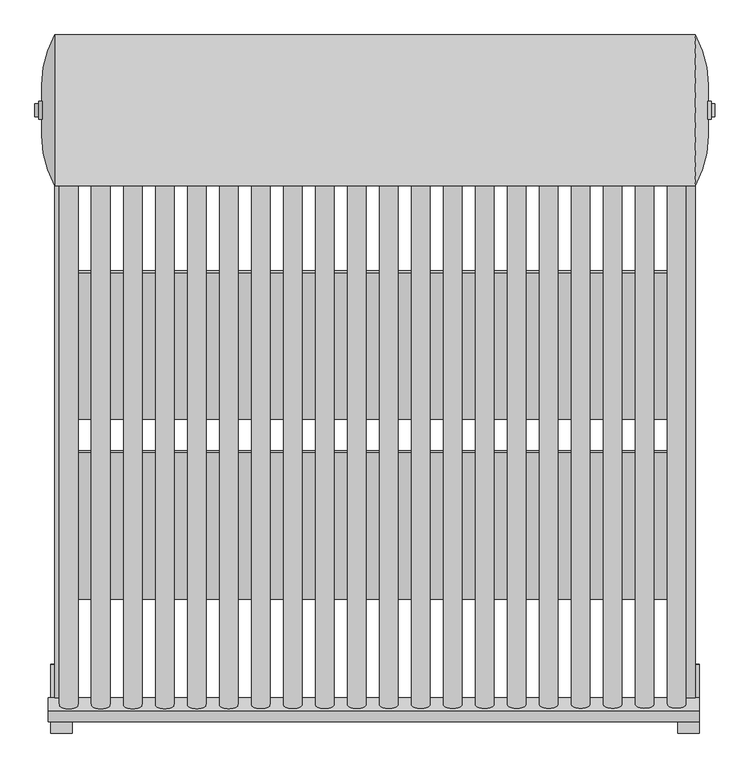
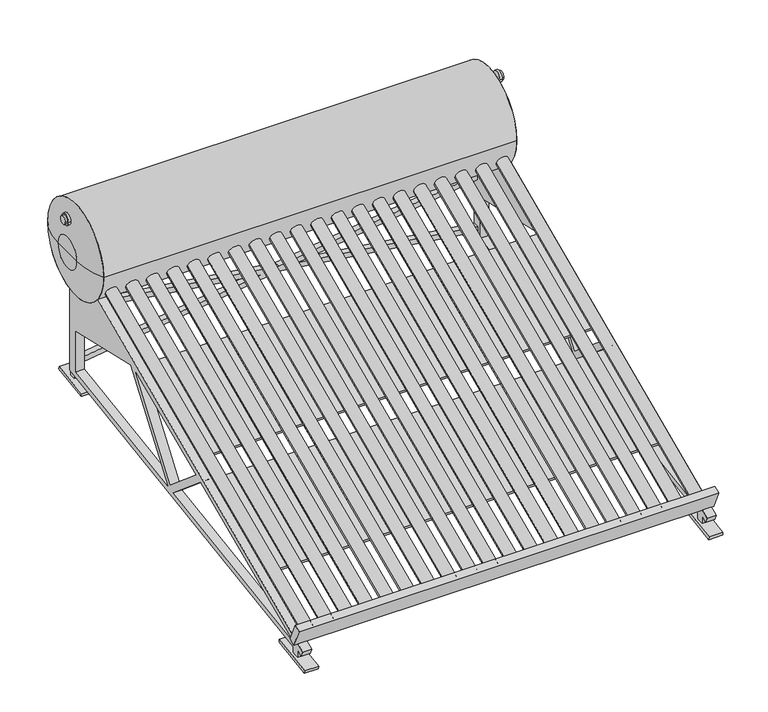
"""IFC4 building model written with IfcOpenShell, lengths in millimetres: proxy geometry, calentador solar techo inclinado : calentador solar techo inclinado."""

from ifc_helpers import new_model, si_unit, point, frame, frame_2d, origin, place, context, project, spatial, polyline, circle_curve, ellipse_curve, trimmed, segment, composite_curve, outline, extrude, source, transform, mapped, element, save
from ifc_brep_helpers import plane_surface, revolved_surface, advanced_brep


def mechanical_equipment_34cca83e(model_context):
    return source(origin(), model_context, "Body", "SolidModel", [
        extrude(outline(polyline([(386.9364534, -952.961891), (361.477457, -952.961891), (493.3636783, -3.7425641), (359.3198256, 957.5336116), (384.7198256, 957.5336116), (506.0407831, 87.4978457), (626.7042219, 955.9438976), (652.1632184, 955.9438976), (518.7932297, -3.9544877), (652.521398, -962.9667781), (627.121398, -962.9667781), (506.1161249, -95.1948975), (386.9364534, -952.961891)])), frame((0.0, 19.5775336, 0.0), z_axis=(0.0, 1.0, 0.0), x_axis=(0.0, 0.0, 1.0)), (0.0, 0.0, 1.0), 29.5442326),
        extrude(outline(composite_curve([segment(polyline([(-1905.5331007, 57.6252264), (-187.0505987, 822.7429315)]), True, "CONTINUOUS"), segment(trimmed(circle_curve(frame_2d((0.0, 965.0)), 235.0), [point((-187.0505987, 822.7429315))], [point((49.1217662, 735.1912706))], True, "CARTESIAN"), True, "CONTINUOUS"), segment(polyline([(49.1217662, 735.1912706), (49.1217662, 318.5210353), (-1826.3569104, 37.5188246), (-1826.3569104, 5.028258), (-1861.3569104, 5.028258), (-1861.3569104, 44.4546452), (-1893.3310014, 30.2188627), (-1905.5331007, 57.6252264)]), True, "CONTINUOUS")], self_intersect=False), holes=[polyline([(-1043.9875005, 404.7127531), (-1815.4713217, 64.8333267), (-817.1883405, 214.4056616), (-1043.9875005, 404.7127531)]), polyline([(-459.6787257, 652.4844148), (-770.7047508, 221.370279), (0.0, 336.8446598), (0.0, 546.1477511), (-459.6787257, 652.4844148)]), polyline([(-794.5530363, 241.3813666), (-505.599093, 641.9013215), (-1008.0644826, 420.5387424), (-794.5530363, 241.3813666)])]), frame((958.2556313, 0.0, 0.0), z_axis=(1.0, 0.0, 0.0), x_axis=(0.0, 1.0, 0.0)), (0.0, 0.0, 1.0), 42.4663884),
        extrude(outline(composite_curve([segment(polyline([(-1905.5331007, 57.6252264), (-187.0505987, 822.7429315)]), True, "CONTINUOUS"), segment(trimmed(circle_curve(frame_2d((0.0, 965.0)), 235.0), [point((-187.0505987, 822.7429315))], [point((49.1217662, 735.1912706))], True, "CARTESIAN"), True, "CONTINUOUS"), segment(polyline([(49.1217662, 735.1912706), (49.1217662, 318.5210353), (-1826.3569104, 37.5188246), (-1826.3569104, 5.028258), (-1861.3569104, 5.028258), (-1861.3569104, 44.4546452), (-1893.3310014, 30.2188627), (-1905.5331007, 57.6252264)]), True, "CONTINUOUS")], self_intersect=False), holes=[polyline([(-1043.9875005, 404.7127531), (-1815.4713217, 64.8333267), (-817.1883405, 214.4056616), (-1043.9875005, 404.7127531)]), polyline([(-459.6787257, 652.4844148), (-770.7047508, 221.370279), (0.0, 336.8446598), (0.0, 546.1477511), (-459.6787257, 652.4844148)]), polyline([(-794.5530363, 241.3813666), (-505.599093, 641.9013215), (-1008.0644826, 420.5387424), (-794.5530363, 241.3813666)])]), frame((-999.8561024, 0.0, 0.0), z_axis=(1.0, 0.0, 0.0), x_axis=(0.0, 1.0, 0.0)), (0.0, 0.0, 1.0), 42.4663884),
        extrude(outline(polyline([(0.0, -215.0), (0.0, 0.0), (66.8072898, 0.0), (66.8072898, -215.0), (0.0, -215.0)])), frame((1012.2911223, -84.5844086, 255.6891183), z_axis=(0.0, -0.13545428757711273, 0.9907835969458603), x_axis=(-1.0, 0.0, 0.0)), (0.0, 0.0, 1.0), 15.0),
        extrude(outline(polyline([(0.0, -500.0), (0.0, 0.0), (1915.0672232, 0.0), (1915.0672232, -500.0), (0.0, -500.0)])), frame((957.5336116, -1519.1906524, 204.011819), z_axis=(0.0, -0.40673664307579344, 0.913545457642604), x_axis=(-1.0, 0.0, 0.0)), (0.0, 0.0, 1.0), 15.0),
        extrude(outline(polyline([(0.0, -500.0), (0.0, 0.0), (1915.0672232, 0.0), (1915.0672232, -500.0), (0.0, -500.0)])), frame((957.5336116, -957.3601959, 454.1548545), z_axis=(0.0, -0.4067366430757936, 0.9135454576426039), x_axis=(-1.0, 0.0, 0.0)), (0.0, 0.0, 1.0), 15.0),
        extrude(outline(composite_curve([segment(trimmed(circle_curve(frame_2d((0.0, 1137.2341595)), 27.661975), [point((-27.661975, 1137.2341595))], [point((27.661975, 1137.2341595))], False, "CARTESIAN"), True, "CONTINUOUS"), segment(trimmed(circle_curve(frame_2d((0.0, 1137.2341595)), 27.661975), [point((27.661975, 1137.2341595))], [point((-27.661975, 1137.2341595))], False, "CARTESIAN"), True, "CONTINUOUS")], self_intersect=False)), frame((-1050.1071672, 0.0, 0.0), z_axis=(1.0, 0.0, 0.0), x_axis=(0.0, 1.0, 0.0)), (0.0, 0.0, 1.0), 11.3301594),
        extrude(outline(composite_curve([segment(trimmed(circle_curve(frame_2d((0.0, 1137.2341595)), 20.0), [point((-20.0, 1137.2341595))], [point((20.0, 1137.2341595))], False, "CARTESIAN"), True, "CONTINUOUS"), segment(trimmed(circle_curve(frame_2d((0.0, 1137.2341595)), 20.0), [point((20.0, 1137.2341595))], [point((-20.0, 1137.2341595))], False, "CARTESIAN"), True, "CONTINUOUS")], self_intersect=False)), frame((-1061.3303129, 0.0, 0.0), z_axis=(1.0, 0.0, 0.0), x_axis=(0.0, 1.0, 0.0)), (0.0, 0.0, 1.0), 11.2231457),
        extrude(outline(polyline([(0.0, -189.1791061), (0.0, 0.0), (66.4907437, 0.0), (66.4907437, -189.1791061), (0.0, -189.1791061)])), frame((-1011.9058815, 119.5251489, 283.5938139), z_axis=(0.0, -0.135454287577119, 0.9907835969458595), x_axis=(1.0, 0.0, 0.0)), (0.0, 0.0, 1.0), 15.0),
        extrude(outline(polyline([(19.5775336, 728.8380011), (49.1217662, 723.6285558), (49.1217662, 291.930498), (19.5775336, 291.930498), (19.5775336, 728.8380011)])), frame((-995.7677785, 0.0, 0.0), z_axis=(1.0, 0.0, 0.0), x_axis=(0.0, 1.0, 0.0)), (0.0, 0.0, 1.0), 32.8010004),
        extrude(outline(polyline([(0.0, -215.0), (0.0, 0.0), (66.8072898, 0.0), (66.8072898, -215.0), (0.0, -215.0)])), frame((-1012.2911223, -1727.8034415, 6.2882596), z_axis=(0.0, -0.1481756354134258, 0.9889610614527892), x_axis=(1.0, 0.0, 0.0)), (0.0, 0.0, 1.0), 15.0),
        extrude(outline(composite_curve([segment(trimmed(circle_curve(frame_2d((-656.0288695, 0.0)), 40.0), [point((-696.0288695, 0.0))], [point((-616.0288695, 0.0))], False, "CARTESIAN"), True, "CONTINUOUS"), segment(trimmed(circle_curve(frame_2d((-656.0288695, 0.0)), 40.0), [point((-616.0288695, 0.0))], [point((-696.0288695, 0.0))], False, "CARTESIAN"), True, "CONTINUOUS")], self_intersect=False)), frame((0.0, 0.0, 1166.3115119), z_axis=(0.0, 0.0, 1.0), x_axis=(1.0, 0.0, 0.0)), (0.0, 0.0, 1.0), 16.2742817),
        extrude(outline(composite_curve([segment(trimmed(circle_curve(frame_2d((-656.0288695, 0.0)), 25.0), [point((-681.0288695, 0.0))], [point((-631.0288695, 0.0))], False, "CARTESIAN"), True, "CONTINUOUS"), segment(trimmed(circle_curve(frame_2d((-656.0288695, 0.0)), 25.0), [point((-631.0288695, 0.0))], [point((-681.0288695, 0.0))], False, "CARTESIAN"), True, "CONTINUOUS")], self_intersect=False)), frame((0.0, 0.0, 1182.5857936), z_axis=(0.0, 0.0, 1.0), x_axis=(1.0, 0.0, 0.0)), (0.0, 0.0, 1.0), 9.5265534),
        extrude(outline(composite_curve([segment(trimmed(circle_curve(frame_2d((0.0, 1137.2341595)), 27.661975), [point((-27.661975, 1137.2341595))], [point((27.661975, 1137.2341595))], False, "CARTESIAN"), True, "CONTINUOUS"), segment(trimmed(circle_curve(frame_2d((0.0, 1137.2341595)), 27.661975), [point((27.661975, 1137.2341595))], [point((-27.661975, 1137.2341595))], False, "CARTESIAN"), True, "CONTINUOUS")], self_intersect=False)), frame((1038.7770077, 0.0, 0.0), z_axis=(1.0, 0.0, 0.0), x_axis=(0.0, 1.0, 0.0)), (0.0, 0.0, 1.0), 11.3301594),
        extrude(outline(composite_curve([segment(trimmed(circle_curve(frame_2d((0.0, 1137.2341595)), 20.0), [point((-20.0, 1137.2341595))], [point((20.0, 1137.2341595))], False, "CARTESIAN"), True, "CONTINUOUS"), segment(trimmed(circle_curve(frame_2d((0.0, 1137.2341595)), 20.0), [point((20.0, 1137.2341595))], [point((-20.0, 1137.2341595))], False, "CARTESIAN"), True, "CONTINUOUS")], self_intersect=False)), frame((1050.1071672, 0.0, 0.0), z_axis=(1.0, 0.0, 0.0), x_axis=(0.0, 1.0, 0.0)), (0.0, 0.0, 1.0), 11.2231457),
        extrude(outline(polyline([(0.0, -189.1791061), (0.0, 0.0), (66.4907437, 0.0), (66.4907437, -189.1791061), (0.0, -189.1791061)])), frame((1011.9058815, -72.8931622, 257.2874789), z_axis=(0.0, -0.135454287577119, 0.9907835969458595), x_axis=(-1.0, 0.0, 0.0)), (0.0, 0.0, 1.0), 15.0),
        extrude(outline(polyline([(19.5775336, 728.8380011), (49.1217662, 723.6285558), (49.1217662, 282.9125999), (19.5775336, 282.9125999), (19.5775336, 728.8380011)])), frame((962.9667781, 0.0, 0.0), z_axis=(1.0, 0.0, 0.0), x_axis=(0.0, 1.0, 0.0)), (0.0, 0.0, 1.0), 32.8010004),
        extrude(outline(polyline([(0.0, -215.0), (0.0, 0.0), (66.8072898, 0.0), (66.8072898, -215.0), (0.0, -215.0)])), frame((1012.2911223, -1940.4300697, -25.569502), z_axis=(0.0, -0.1481756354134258, 0.9889610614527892), x_axis=(-1.0, 0.0, 0.0)), (0.0, 0.0, 1.0), 15.0),
        extrude(outline(polyline([(0.0, -34.6902905), (0.0, 0.0), (2031.582253, 0.0), (2031.582253, -34.6902905), (0.0, -34.6902905)])), frame((1012.2911223, -1864.4235551, 75.9283753), z_axis=(0.0, -0.40673664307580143, 0.9135454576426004), x_axis=(-1.0, 0.0, 0.0)), (0.0, 0.0, 1.0), 103.9882392),
        extrude(outline(composite_curve([segment(trimmed(circle_curve(frame_2d((0.0, -29.0)), 29.0), [point((0.0, -58.0))], [point((0.0, 0.0))], False, "CARTESIAN"), True, "CONTINUOUS"), segment(trimmed(circle_curve(frame_2d((0.0, -29.0)), 29.0), [point((0.0, 0.0))], [point((0.0, -58.0))], False, "CARTESIAN"), True, "CONTINUOUS")], self_intersect=False)), frame((-926.6831086, -1866.0756965, 137.365657), z_axis=(0.0, 0.9135454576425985, 0.4067366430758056), x_axis=(0.0, -0.4067366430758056, 0.9135454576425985)), (0.0, 0.0, 1.0), 1800.0),
        extrude(outline(composite_curve([segment(trimmed(circle_curve(frame_2d((0.0, -29.0)), 29.0), [point((0.0, -58.0))], [point((0.0, 0.0))], False, "CARTESIAN"), True, "CONTINUOUS"), segment(trimmed(circle_curve(frame_2d((0.0, -29.0)), 29.0), [point((0.0, 0.0))], [point((0.0, -58.0))], False, "CARTESIAN"), True, "CONTINUOUS")], self_intersect=False)), frame((-826.8116296, -1865.4143841, 137.3309991), z_axis=(0.0, 0.9135454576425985, 0.4067366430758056), x_axis=(0.0, -0.4067366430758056, 0.9135454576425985)), (0.0, 0.0, 1.0), 1800.0),
        extrude(outline(composite_curve([segment(trimmed(circle_curve(frame_2d((0.0, -29.0)), 29.0), [point((0.0, -58.0))], [point((0.0, 0.0))], False, "CARTESIAN"), True, "CONTINUOUS"), segment(trimmed(circle_curve(frame_2d((0.0, -29.0)), 29.0), [point((0.0, 0.0))], [point((0.0, -58.0))], False, "CARTESIAN"), True, "CONTINUOUS")], self_intersect=False)), frame((-726.9401505, -1864.7530718, 137.2963412), z_axis=(0.0, 0.9135454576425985, 0.4067366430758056), x_axis=(0.0, -0.4067366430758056, 0.9135454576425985)), (0.0, 0.0, 1.0), 1800.0),
        extrude(outline(composite_curve([segment(trimmed(circle_curve(frame_2d((0.0, -29.0)), 29.0), [point((0.0, -58.0))], [point((0.0, 0.0))], False, "CARTESIAN"), True, "CONTINUOUS"), segment(trimmed(circle_curve(frame_2d((0.0, -29.0)), 29.0), [point((0.0, 0.0))], [point((0.0, -58.0))], False, "CARTESIAN"), True, "CONTINUOUS")], self_intersect=False)), frame((-627.0686715, -1864.0917594, 137.2616833), z_axis=(0.0, 0.9135454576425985, 0.4067366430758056), x_axis=(0.0, -0.4067366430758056, 0.9135454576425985)), (0.0, 0.0, 1.0), 1800.0),
        extrude(outline(composite_curve([segment(trimmed(circle_curve(frame_2d((0.0, -29.0)), 29.0), [point((0.0, -58.0))], [point((0.0, 0.0))], False, "CARTESIAN"), True, "CONTINUOUS"), segment(trimmed(circle_curve(frame_2d((0.0, -29.0)), 29.0), [point((0.0, 0.0))], [point((0.0, -58.0))], False, "CARTESIAN"), True, "CONTINUOUS")], self_intersect=False)), frame((-527.1971924, -1863.430447, 137.2270254), z_axis=(0.0, 0.9135454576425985, 0.4067366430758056), x_axis=(0.0, -0.4067366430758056, 0.9135454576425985)), (0.0, 0.0, 1.0), 1800.0),
        extrude(outline(composite_curve([segment(trimmed(circle_curve(frame_2d((0.0, -29.0)), 29.0), [point((0.0, -58.0))], [point((0.0, 0.0))], False, "CARTESIAN"), True, "CONTINUOUS"), segment(trimmed(circle_curve(frame_2d((0.0, -29.0)), 29.0), [point((0.0, 0.0))], [point((0.0, -58.0))], False, "CARTESIAN"), True, "CONTINUOUS")], self_intersect=False)), frame((-427.3257134, -1862.7691347, 137.1923675), z_axis=(0.0, 0.9135454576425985, 0.4067366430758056), x_axis=(0.0, -0.4067366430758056, 0.9135454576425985)), (0.0, 0.0, 1.0), 1800.0),
        extrude(outline(composite_curve([segment(trimmed(circle_curve(frame_2d((0.0, -29.0)), 29.0), [point((0.0, -58.0))], [point((0.0, 0.0))], False, "CARTESIAN"), True, "CONTINUOUS"), segment(trimmed(circle_curve(frame_2d((0.0, -29.0)), 29.0), [point((0.0, 0.0))], [point((0.0, -58.0))], False, "CARTESIAN"), True, "CONTINUOUS")], self_intersect=False)), frame((-327.4542343, -1862.1078223, 137.1577096), z_axis=(0.0, 0.9135454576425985, 0.4067366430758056), x_axis=(0.0, -0.4067366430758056, 0.9135454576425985)), (0.0, 0.0, 1.0), 1800.0),
        extrude(outline(composite_curve([segment(trimmed(circle_curve(frame_2d((0.0, -29.0)), 29.0), [point((0.0, -58.0))], [point((0.0, 0.0))], False, "CARTESIAN"), True, "CONTINUOUS"), segment(trimmed(circle_curve(frame_2d((0.0, -29.0)), 29.0), [point((0.0, 0.0))], [point((0.0, -58.0))], False, "CARTESIAN"), True, "CONTINUOUS")], self_intersect=False)), frame((-227.5827553, -1861.4465099, 137.1230516), z_axis=(0.0, 0.9135454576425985, 0.4067366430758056), x_axis=(0.0, -0.4067366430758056, 0.9135454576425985)), (0.0, 0.0, 1.0), 1800.0),
        extrude(outline(composite_curve([segment(trimmed(circle_curve(frame_2d((0.0, -29.0)), 29.0), [point((0.0, -58.0))], [point((0.0, 0.0))], False, "CARTESIAN"), True, "CONTINUOUS"), segment(trimmed(circle_curve(frame_2d((0.0, -29.0)), 29.0), [point((0.0, 0.0))], [point((0.0, -58.0))], False, "CARTESIAN"), True, "CONTINUOUS")], self_intersect=False)), frame((-127.7112762, -1860.7851976, 137.0883937), z_axis=(0.0, 0.9135454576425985, 0.4067366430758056), x_axis=(0.0, -0.4067366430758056, 0.9135454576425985)), (0.0, 0.0, 1.0), 1800.0),
        extrude(outline(composite_curve([segment(trimmed(circle_curve(frame_2d((0.0, -29.0)), 29.0), [point((0.0, -58.0))], [point((0.0, 0.0))], False, "CARTESIAN"), True, "CONTINUOUS"), segment(trimmed(circle_curve(frame_2d((0.0, -29.0)), 29.0), [point((0.0, 0.0))], [point((0.0, -58.0))], False, "CARTESIAN"), True, "CONTINUOUS")], self_intersect=False)), frame((-27.8397971, -1860.1238852, 137.0537358), z_axis=(0.0, 0.9135454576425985, 0.4067366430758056), x_axis=(0.0, -0.4067366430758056, 0.9135454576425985)), (0.0, 0.0, 1.0), 1800.0),
        extrude(outline(composite_curve([segment(trimmed(circle_curve(frame_2d((0.0, -29.0)), 29.0), [point((0.0, -58.0))], [point((0.0, 0.0))], False, "CARTESIAN"), True, "CONTINUOUS"), segment(trimmed(circle_curve(frame_2d((0.0, -29.0)), 29.0), [point((0.0, 0.0))], [point((0.0, -58.0))], False, "CARTESIAN"), True, "CONTINUOUS")], self_intersect=False)), frame((72.0316819, -1859.4625728, 137.0190779), z_axis=(0.0, 0.9135454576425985, 0.4067366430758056), x_axis=(0.0, -0.4067366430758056, 0.9135454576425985)), (0.0, 0.0, 1.0), 1800.0),
        extrude(outline(composite_curve([segment(trimmed(circle_curve(frame_2d((0.0, -29.0)), 29.0), [point((0.0, -58.0))], [point((0.0, 0.0))], False, "CARTESIAN"), True, "CONTINUOUS"), segment(trimmed(circle_curve(frame_2d((0.0, -29.0)), 29.0), [point((0.0, 0.0))], [point((0.0, -58.0))], False, "CARTESIAN"), True, "CONTINUOUS")], self_intersect=False)), frame((171.903161, -1858.8012605, 136.98442), z_axis=(0.0, 0.9135454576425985, 0.4067366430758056), x_axis=(0.0, -0.4067366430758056, 0.9135454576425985)), (0.0, 0.0, 1.0), 1800.0),
        extrude(outline(composite_curve([segment(trimmed(circle_curve(frame_2d((0.0, -29.0)), 29.0), [point((0.0, -58.0))], [point((0.0, 0.0))], False, "CARTESIAN"), True, "CONTINUOUS"), segment(trimmed(circle_curve(frame_2d((0.0, -29.0)), 29.0), [point((0.0, 0.0))], [point((0.0, -58.0))], False, "CARTESIAN"), True, "CONTINUOUS")], self_intersect=False)), frame((271.77464, -1858.1399481, 136.9497621), z_axis=(0.0, 0.9135454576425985, 0.4067366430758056), x_axis=(0.0, -0.4067366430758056, 0.9135454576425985)), (0.0, 0.0, 1.0), 1800.0),
        extrude(outline(composite_curve([segment(trimmed(circle_curve(frame_2d((0.0, -29.0)), 29.0), [point((0.0, -58.0))], [point((0.0, 0.0))], False, "CARTESIAN"), True, "CONTINUOUS"), segment(trimmed(circle_curve(frame_2d((0.0, -29.0)), 29.0), [point((0.0, 0.0))], [point((0.0, -58.0))], False, "CARTESIAN"), True, "CONTINUOUS")], self_intersect=False)), frame((371.6461191, -1857.4786357, 136.9151042), z_axis=(0.0, 0.9135454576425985, 0.4067366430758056), x_axis=(0.0, -0.4067366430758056, 0.9135454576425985)), (0.0, 0.0, 1.0), 1800.0),
        extrude(outline(composite_curve([segment(trimmed(circle_curve(frame_2d((0.0, -29.0)), 29.0), [point((0.0, -58.0))], [point((0.0, 0.0))], False, "CARTESIAN"), True, "CONTINUOUS"), segment(trimmed(circle_curve(frame_2d((0.0, -29.0)), 29.0), [point((0.0, 0.0))], [point((0.0, -58.0))], False, "CARTESIAN"), True, "CONTINUOUS")], self_intersect=False)), frame((471.5175981, -1856.8173234, 136.8804463), z_axis=(0.0, 0.9135454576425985, 0.4067366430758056), x_axis=(0.0, -0.4067366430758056, 0.9135454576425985)), (0.0, 0.0, 1.0), 1800.0),
        extrude(outline(composite_curve([segment(trimmed(circle_curve(frame_2d((0.0, -29.0)), 29.0), [point((0.0, -58.0))], [point((0.0, 0.0))], False, "CARTESIAN"), True, "CONTINUOUS"), segment(trimmed(circle_curve(frame_2d((0.0, -29.0)), 29.0), [point((0.0, 0.0))], [point((0.0, -58.0))], False, "CARTESIAN"), True, "CONTINUOUS")], self_intersect=False)), frame((571.3890772, -1856.156011, 136.8457883), z_axis=(0.0, 0.9135454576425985, 0.4067366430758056), x_axis=(0.0, -0.4067366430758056, 0.9135454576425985)), (0.0, 0.0, 1.0), 1800.0),
        extrude(outline(composite_curve([segment(trimmed(circle_curve(frame_2d((0.0, -29.0)), 29.0), [point((0.0, -58.0))], [point((0.0, 0.0))], False, "CARTESIAN"), True, "CONTINUOUS"), segment(trimmed(circle_curve(frame_2d((0.0, -29.0)), 29.0), [point((0.0, 0.0))], [point((0.0, -58.0))], False, "CARTESIAN"), True, "CONTINUOUS")], self_intersect=False)), frame((671.2605562, -1855.4946987, 136.8111304), z_axis=(0.0, 0.9135454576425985, 0.4067366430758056), x_axis=(0.0, -0.4067366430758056, 0.9135454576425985)), (0.0, 0.0, 1.0), 1800.0),
        extrude(outline(composite_curve([segment(trimmed(circle_curve(frame_2d((0.0, -29.0)), 29.0), [point((0.0, -58.0))], [point((0.0, 0.0))], False, "CARTESIAN"), True, "CONTINUOUS"), segment(trimmed(circle_curve(frame_2d((0.0, -29.0)), 29.0), [point((0.0, 0.0))], [point((0.0, -58.0))], False, "CARTESIAN"), True, "CONTINUOUS")], self_intersect=False)), frame((771.1320353, -1854.8333863, 136.7764725), z_axis=(0.0, 0.9135454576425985, 0.4067366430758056), x_axis=(0.0, -0.4067366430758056, 0.9135454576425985)), (0.0, 0.0, 1.0), 1800.0),
        extrude(outline(composite_curve([segment(trimmed(circle_curve(frame_2d((0.0, -29.0)), 29.0), [point((0.0, -58.0))], [point((0.0, 0.0))], False, "CARTESIAN"), True, "CONTINUOUS"), segment(trimmed(circle_curve(frame_2d((0.0, -29.0)), 29.0), [point((0.0, 0.0))], [point((0.0, -58.0))], False, "CARTESIAN"), True, "CONTINUOUS")], self_intersect=False)), frame((871.0035144, -1854.1720739, 136.7418146), z_axis=(0.0, 0.9135454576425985, 0.4067366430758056), x_axis=(0.0, -0.4067366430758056, 0.9135454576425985)), (0.0, 0.0, 1.0), 1800.0),
        extrude(outline(composite_curve([segment(trimmed(circle_curve(frame_2d((0.0, -29.0)), 29.0), [point((0.0, -58.0))], [point((0.0, 0.0))], False, "CARTESIAN"), True, "CONTINUOUS"), segment(trimmed(circle_curve(frame_2d((0.0, -29.0)), 29.0), [point((0.0, 0.0))], [point((0.0, -58.0))], False, "CARTESIAN"), True, "CONTINUOUS")], self_intersect=False)), frame((970.8749934, -1853.5107616, 136.7071567), z_axis=(0.0, 0.9135454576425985, 0.4067366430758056), x_axis=(0.0, -0.4067366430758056, 0.9135454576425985)), (0.0, 0.0, 1.0), 1800.0),
        advanced_brep(
        [(-1000.0, 0.0, 965.0), (-1000.0, -235.0, 965.0), (-1000.0, 235.0, 965.0), (-1040.0, -80.0, 965.0), (-1040.0, 80.0, 965.0), (-1040.0, 0.0, 965.0)],
        [
            (0, 1),
            (1, 2, circle_curve(frame((-1000.0, 0.0, 965.0), z_axis=(1.0, 0.0, 0.0), x_axis=(0.0, -1.0, 0.0)), 235.0)),
            (2, 0),
            (2, 1, circle_curve(frame((-1000.0, 0.0, 965.0), z_axis=(1.0, 0.0, 0.0), x_axis=(0.0, -1.0, 0.0)), 235.0)),
            (1, 3, circle_curve(frame((-719.6875, -80.0, 965.0), z_axis=(0.0, 0.0, -1.0), x_axis=(-1.0, 0.0, 0.0)), 320.3125)),
            (3, 4, circle_curve(frame((-1040.0, 0.0, 965.0), z_axis=(1.0, 0.0, 0.0), x_axis=(0.0, -1.0, 0.0)), 80.0)),
            (4, 2, circle_curve(frame((-719.6875, 80.0, 965.0), z_axis=(0.0, 0.0, -1.0), x_axis=(-1.0, 0.0, 0.0)), 320.3125)),
            (4, 3, circle_curve(frame((-1040.0, 0.0, 965.0), z_axis=(1.0, 0.0, 0.0), x_axis=(0.0, -1.0, 0.0)), 80.0)),
            (3, 5),
            (5, 4),
        ],
        [
            plane_surface(frame((-1000.0, 0.0, 965.0), z_axis=(1.0, 0.0, 0.0), x_axis=(0.0, -1.0, 0.0))),
            revolved_surface(trimmed(ellipse_curve(frame((-719.6875, -80.0, 965.0), z_axis=(0.0, 0.0, 1.0), x_axis=(-1.0, 0.0, 0.0)), 320.3125, 320.3125), [point((-1040.0, -80.0, 965.0))], [point((-1000.0, -235.0, 965.0))], True, "CARTESIAN"), (-1000.0, 0.0, 965.0), (1.0, 0.0, 0.0)),
            plane_surface(frame((-1040.0, 0.0, 965.0), z_axis=(-1.0, 0.0, 0.0), x_axis=(0.0, -1.0, 0.0))),
        ],
        [
            (0, [[1, 2, 3]]),
            (0, [[-3, 4, -1]]),
            (1, [[-2, 5, 6, 7]]),
            (1, [[-4, -7, 8, -5]]),
            (2, [[-6, 9, 10]]),
            (2, [[-8, -10, -9]]),
        ],
    ),
        advanced_brep(
        [(1000.0, 235.0, 965.0), (1000.0, -235.0, 965.0), (1000.0, 0.0, 965.0), (1040.0, 80.0, 965.0), (1040.0, -80.0, 965.0), (1040.0, 0.0, 965.0)],
        [
            (0, 1, circle_curve(frame((1000.0, 0.0, 965.0), z_axis=(-1.0, 0.0, 0.0), x_axis=(0.0, -1.0, 0.0)), 235.0)),
            (1, 2),
            (2, 0),
            (1, 0, circle_curve(frame((1000.0, 0.0, 965.0), z_axis=(-1.0, 0.0, 0.0), x_axis=(0.0, -1.0, 0.0)), 235.0)),
            (3, 4, circle_curve(frame((1040.0, 0.0, 965.0), z_axis=(-1.0, 0.0, 0.0), x_axis=(0.0, -1.0, 0.0)), 80.0)),
            (4, 1, circle_curve(frame((719.6875, -80.0, 965.0), z_axis=(0.0, 0.0, -1.0), x_axis=(1.0, 0.0, 0.0)), 320.3125)),
            (0, 3, circle_curve(frame((719.6875, 80.0, 965.0), z_axis=(0.0, 0.0, -1.0), x_axis=(1.0, 0.0, 0.0)), 320.3125)),
            (4, 3, circle_curve(frame((1040.0, 0.0, 965.0), z_axis=(-1.0, 0.0, 0.0), x_axis=(0.0, -1.0, 0.0)), 80.0)),
            (5, 4),
            (3, 5),
        ],
        [
            plane_surface(frame((1000.0, 0.0, 965.0), z_axis=(-1.0, 0.0, 0.0), x_axis=(0.0, -1.0, 0.0))),
            revolved_surface(trimmed(ellipse_curve(frame((719.6875, -80.0, 965.0), z_axis=(0.0, 0.0, 1.0), x_axis=(1.0, 0.0, 0.0)), 320.3125, 320.3125), [point((1000.0, -235.0, 965.0))], [point((1040.0, -80.0, 965.0))], True, "CARTESIAN"), (1000.0, 0.0, 965.0), (1.0, 0.0, 0.0)),
            plane_surface(frame((1040.0, 0.0, 965.0), z_axis=(1.0, 0.0, 0.0), x_axis=(0.0, -1.0, 0.0))),
        ],
        [
            (0, [[1, 2, 3]]),
            (0, [[4, -3, -2]]),
            (1, [[5, 6, -1, 7]]),
            (1, [[8, -7, -4, -6]]),
            (2, [[9, -5, 10]]),
            (2, [[-10, -8, -9]]),
        ],
    ),
        extrude(outline(composite_curve([segment(trimmed(circle_curve(frame_2d((0.0, 965.0)), 235.0), [point((-235.0, 965.0))], [point((235.0, 965.0))], False, "CARTESIAN"), True, "CONTINUOUS"), segment(trimmed(circle_curve(frame_2d((0.0, 965.0)), 235.0), [point((235.0, 965.0))], [point((-235.0, 965.0))], False, "CARTESIAN"), True, "CONTINUOUS")], self_intersect=False)), frame((-1000.0, 0.0, 0.0), z_axis=(1.0, 0.0, 0.0), x_axis=(0.0, 1.0, 0.0)), (0.0, 0.0, 1.0), 2000.0),
    ])


if __name__ == "__main__":
    model = new_model("IFC4")
    model_context = context("Model", 3, world=origin())
    ifc_project = project(units=[si_unit("LENGTHUNIT", "METRE", prefix="MILLI")], contexts=[model_context])
    site = spatial("IfcSite", under=ifc_project)
    building = spatial("IfcBuilding", under=site)
    placement = place(None, origin())
    mechanical_equipment_shape = mechanical_equipment_34cca83e(model_context)
    element("IfcBuildingElementProxy", 1, Name="calentador solar techo inclinado : calentador solar techo inclinado", ObjectType="calentador solar techo inclinado : calentador solar techo inclinado", at=placement, inside=building, context=model_context, shape_type="MappedRepresentation", body=[
        mapped(mechanical_equipment_shape, transform((0.0, 0.0, 0.0), x_axis=(1.0, 0.0, 0.0), y_axis=(0.0, 1.0, 0.0), z_axis=(0.0, 0.0, 1.0))),
    ])
    save(model, "model.ifc")
